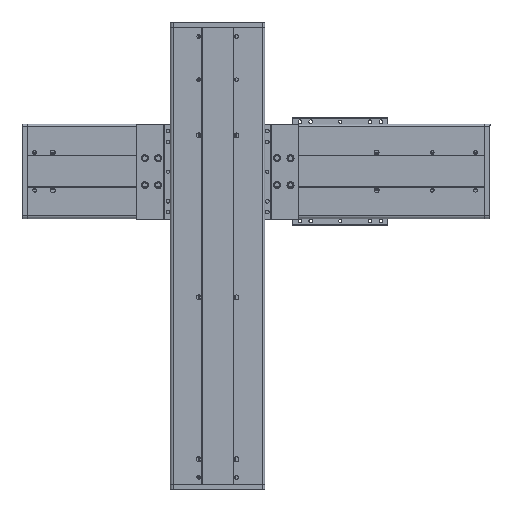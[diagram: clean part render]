
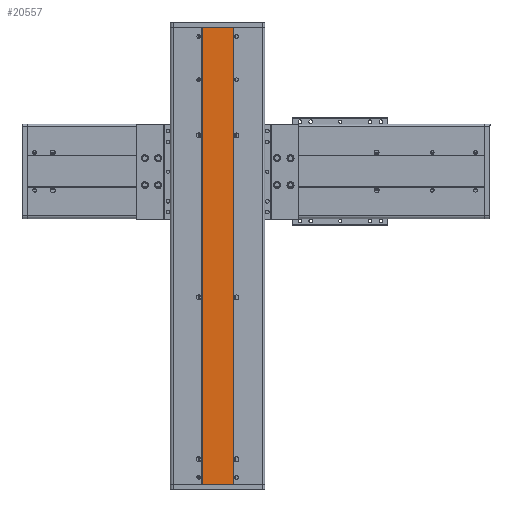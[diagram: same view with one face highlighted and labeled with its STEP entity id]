
A CAD part, front view. The second image highlights one B-rep face of the part: STEP entity #20557.
In plain terms, the highlighted planar face has unit normal (0, -1, 0).
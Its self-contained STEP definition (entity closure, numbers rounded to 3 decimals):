
#1038 = LINE ( 'NONE', #5377, #10166 ) ;
#1048 = VERTEX_POINT ( 'NONE', #5444 ) ;
#2985 = VECTOR ( 'NONE', #36125, 1000. ) ;
#3280 = ORIENTED_EDGE ( 'NONE', *, *, #40098, .F. ) ;
#3689 = EDGE_CURVE ( 'NONE', #23370, #16695, #1038, .T. ) ;
#4047 = LINE ( 'NONE', #8720, #2985 ) ;
#5213 = VECTOR ( 'NONE', #16240, 1000. ) ;
#5377 = CARTESIAN_POINT ( 'NONE',  ( 58.27, -85.314, -1033. ) ) ;
#5444 = CARTESIAN_POINT ( 'NONE',  ( 1.27, -85.314, 0. ) ) ;
#6836 = CARTESIAN_POINT ( 'NONE',  ( 1.27, -85.314, -1033. ) ) ;
#8720 = CARTESIAN_POINT ( 'NONE',  ( 1.27, -85.314, -1033. ) ) ;
#10166 = VECTOR ( 'NONE', #22430, 1000. ) ;
#10310 = DIRECTION ( 'NONE',  ( 0., 0., 1. ) ) ;
#10961 = DIRECTION ( 'NONE',  ( -1., 0., 0. ) ) ;
#11767 = CARTESIAN_POINT ( 'NONE',  ( 58.27, -85.314, 0. ) ) ;
#12973 = EDGE_CURVE ( 'NONE', #16695, #21403, #13223, .T. ) ;
#13223 = LINE ( 'NONE', #33335, #5213 ) ;
#13494 = ORIENTED_EDGE ( 'NONE', *, *, #3689, .T. ) ;
#16240 = DIRECTION ( 'NONE',  ( -1., 0., 0. ) ) ;
#16300 = EDGE_LOOP ( 'NONE', ( #13494, #41425, #18993, #3280 ) ) ;
#16695 = VERTEX_POINT ( 'NONE', #32113 ) ;
#17753 = VECTOR ( 'NONE', #10961, 1000. ) ;
#18993 = ORIENTED_EDGE ( 'NONE', *, *, #26354, .F. ) ;
#20557 = ADVANCED_FACE ( 'NONE', ( #36674 ), #23917, .F. ) ;
#21128 = CARTESIAN_POINT ( 'NONE',  ( 0., -85.314, 0. ) ) ;
#21403 = VERTEX_POINT ( 'NONE', #31930 ) ;
#22430 = DIRECTION ( 'NONE',  ( 0., 0., 1. ) ) ;
#23370 = VERTEX_POINT ( 'NONE', #11767 ) ;
#23917 = PLANE ( 'NONE',  #27519 ) ;
#26354 = EDGE_CURVE ( 'NONE', #1048, #21403, #4047, .T. ) ;
#26867 = LINE ( 'NONE', #21128, #17753 ) ;
#27519 = AXIS2_PLACEMENT_3D ( 'NONE', #6836, #30800, #10310 ) ;
#30800 = DIRECTION ( 'NONE',  ( 0., 1., 0. ) ) ;
#31930 = CARTESIAN_POINT ( 'NONE',  ( 1.27, -85.314, 847. ) ) ;
#32113 = CARTESIAN_POINT ( 'NONE',  ( 58.27, -85.314, 847. ) ) ;
#33335 = CARTESIAN_POINT ( 'NONE',  ( 1.27, -85.314, 847. ) ) ;
#36125 = DIRECTION ( 'NONE',  ( 0., 0., 1. ) ) ;
#36674 = FACE_OUTER_BOUND ( 'NONE', #16300, .T. ) ;
#40098 = EDGE_CURVE ( 'NONE', #23370, #1048, #26867, .T. ) ;
#41425 = ORIENTED_EDGE ( 'NONE', *, *, #12973, .T. ) ;
